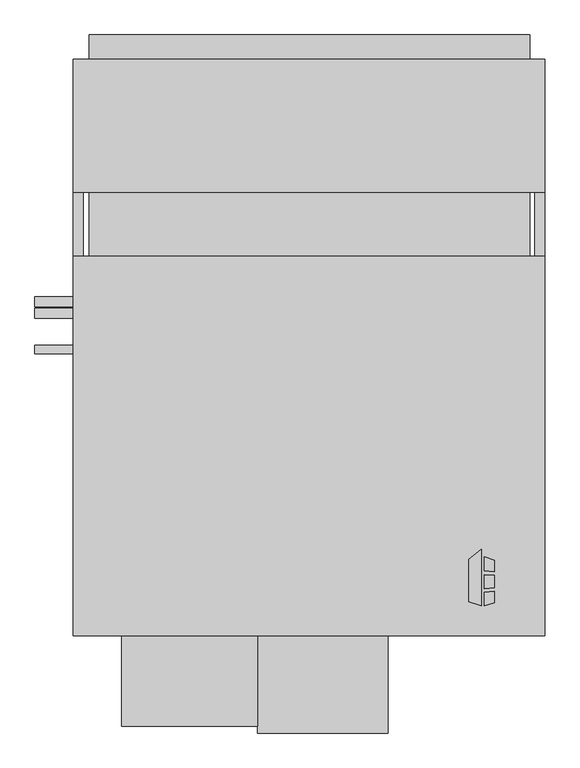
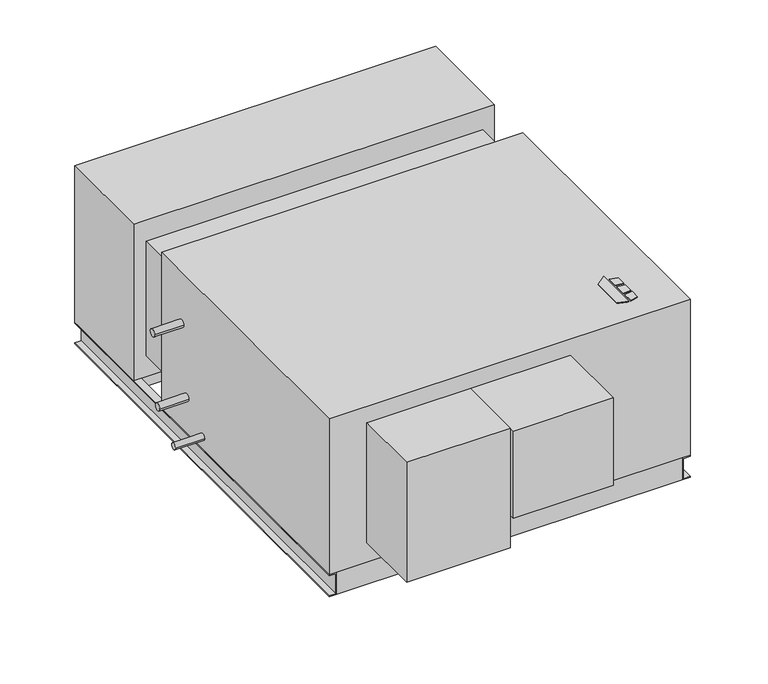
"""IFC4 building model written with IfcOpenShell, lengths in millimetres: proxy geometry, Horizontal_Direct_Drive_Blower_Coil_Unit_-_HDY_-_IEC_-_2-Pipe_Cool-EHeat_NFilterR_W-MixingBox_LH_2022 : Size 16 - 460v/60Hz/3Ph - 8 Row 16.0kW LH."""

from ifc_helpers import new_model, si_unit, point, frame, frame_2d, origin, origin_with_axes, place, context, project, spatial, polyline, circle_curve, trimmed, segment, composite_curve, outline, extrude, source, transform, mapped, element, save


def mechanical_equipment_5c8f0047(model_context):
    return source(origin(), model_context, "Body", "SweptSolid", [
        extrude(outline(polyline([(-65.3980239, -274.0078476), (-32.8397272, -248.5705184), (-32.8397272, -390.525), (-65.3980239, -380.3054201), (-65.3980239, -274.0078476)])), origin_with_axes(), (0.0, 0.0, 1.0), 3.175),
        extrude(outline(polyline([(-26.0813942, -301.879852), (-26.0813942, -267.3999379), (0.0, -275.5865115), (0.0, -305.0822446), (-26.0813942, -301.879852)])), origin_with_axes(), (0.0, 0.0, 1.0), 3.175),
        extrude(outline(polyline([(0.0, -383.5365115), (-26.0813942, -390.525), (-26.0813942, -357.3036996), (0.0, -353.7618564), (0.0, -383.5365115)])), origin_with_axes(), (0.0, 0.0, 1.0), 3.175),
        extrude(outline(polyline([(0.0, -314.1638277), (0.0, -345.413983), (-26.0813942, -348.155248), (-26.0813942, -312.2975378), (0.0, -314.1638277)])), origin_with_axes(), (0.0, 0.0, 1.0), 3.175),
        extrude(outline(polyline([(88.9, 889.635), (88.9, 686.435), (-1025.525, 686.435), (-1025.525, 889.635), (88.9, 889.635)])), frame((0.0, 0.0, -607.06), z_axis=(0.0, 0.0, 1.0), x_axis=(1.0, 0.0, 0.0)), (0.0, 0.0, 1.0), 60.96),
        extrude(outline(polyline([(-1025.525, 1052.195), (88.9, 1052.195), (88.9, 991.235), (-1025.525, 991.235), (-1025.525, 1052.195)])), frame((0.0, 0.0, -279.4), z_axis=(0.0, 0.0, 1.0), x_axis=(1.0, 0.0, 0.0)), (0.0, 0.0, 1.0), 203.2),
        extrude(outline(polyline([(127.0, 991.235), (127.0, 654.05), (-1066.8, 654.05), (-1066.8, 991.235), (127.0, 991.235)])), frame((0.0, 0.0, -546.1), z_axis=(0.0, 0.0, 1.0), x_axis=(1.0, 0.0, 0.0)), (0.0, 0.0, 1.0), 546.1),
        extrude(outline(polyline([(101.6, -441.325), (101.6, -466.725), (-1041.4, -466.725), (-1041.4, -441.325), (101.6, -441.325)])), frame((0.0, 0.0, -622.3), z_axis=(0.0, 0.0, 1.0), x_axis=(1.0, 0.0, 0.0)), (0.0, 0.0, 1.0), 76.2),
        extrude(outline(polyline([(101.6, 991.235), (101.6, 965.835), (-1041.4, 965.835), (-1041.4, 991.235), (101.6, 991.235)])), frame((0.0, 0.0, -622.3), z_axis=(0.0, 0.0, 1.0), x_axis=(1.0, 0.0, 0.0)), (0.0, 0.0, 1.0), 76.2),
        extrude(outline(polyline([(-546.1, -1041.4), (-546.1, -1066.8), (-549.275, -1066.8), (-549.275, -1044.575), (-619.125, -1044.575), (-619.125, -1066.8), (-622.3, -1066.8), (-622.3, -1041.4), (-546.1, -1041.4)])), frame((0.0, -466.725, 0.0), z_axis=(0.0, 1.0, 0.0), x_axis=(0.0, 0.0, 1.0)), (0.0, 0.0, 1.0), 1457.96),
        extrude(outline(polyline([(-546.1, 101.6), (-622.3, 101.6), (-622.3, 127.0), (-619.125, 127.0), (-619.125, 104.775), (-549.275, 104.775), (-549.275, 127.0), (-546.1, 127.0), (-546.1, 101.6)])), frame((0.0, -466.725, 0.0), z_axis=(0.0, 1.0, 0.0), x_axis=(0.0, 0.0, 1.0)), (0.0, 0.0, 1.0), 1457.96),
        extrude(outline(composite_curve([segment(trimmed(circle_curve(frame_2d((377.825, -177.8)), 12.7), [point((365.125, -177.8))], [point((390.525, -177.8))], False, "CARTESIAN"), True, "CONTINUOUS"), segment(trimmed(circle_curve(frame_2d((377.825, -177.8)), 12.7), [point((390.525, -177.8))], [point((365.125, -177.8))], False, "CARTESIAN"), True, "CONTINUOUS")], self_intersect=False)), frame((-1163.1025559, 0.0, 0.0), z_axis=(1.0, 0.0, 0.0), x_axis=(0.0, 1.0, 0.0)), (0.0, 0.0, 1.0), 96.3025559),
        extrude(outline(composite_curve([segment(trimmed(circle_curve(frame_2d((348.9715397, -419.1)), 12.7), [point((336.2715397, -419.1))], [point((361.6715397, -419.1))], False, "CARTESIAN"), True, "CONTINUOUS"), segment(trimmed(circle_curve(frame_2d((348.9715397, -419.1)), 12.7), [point((361.6715397, -419.1))], [point((336.2715397, -419.1))], False, "CARTESIAN"), True, "CONTINUOUS")], self_intersect=False)), frame((-1163.1025559, 0.0, 0.0), z_axis=(1.0, 0.0, 0.0), x_axis=(0.0, 1.0, 0.0)), (0.0, 0.0, 1.0), 96.3025559),
        extrude(outline(composite_curve([segment(trimmed(circle_curve(frame_2d((257.175, -501.65)), 11.1125), [point((246.0625, -501.65))], [point((268.2875, -501.65))], False, "CARTESIAN"), True, "CONTINUOUS"), segment(trimmed(circle_curve(frame_2d((257.175, -501.65)), 11.1125), [point((268.2875, -501.65))], [point((246.0625, -501.65))], False, "CARTESIAN"), True, "CONTINUOUS")], self_intersect=False)), frame((-1163.1025559, 0.0, 0.0), z_axis=(1.0, 0.0, 0.0), x_axis=(0.0, 1.0, 0.0)), (0.0, 0.0, 1.0), 96.3025559),
        extrude(outline(polyline([(127.0, 492.125), (127.0, -466.725), (-1066.8, -466.725), (-1066.8, 492.125), (127.0, 492.125)])), frame((0.0, 0.0, -546.1), z_axis=(0.0, 0.0, 1.0), x_axis=(1.0, 0.0, 0.0)), (0.0, 0.0, 1.0), 546.1),
        extrude(outline(polyline([(-600.075, -695.325), (-942.975, -695.325), (-942.975, -466.725), (-600.075, -466.725), (-600.075, -695.325)])), frame((0.0, 0.0, -476.25), z_axis=(0.0, 0.0, 1.0), x_axis=(1.0, 0.0, 0.0)), (0.0, 0.0, 1.0), 419.1),
        extrude(outline(polyline([(-1025.525, 654.05), (88.9, 654.05), (88.9, 492.125), (-1025.525, 492.125), (-1025.525, 654.05)])), frame((0.0, 0.0, -473.075), z_axis=(0.0, 0.0, 1.0), x_axis=(1.0, 0.0, 0.0)), (0.0, 0.0, 1.0), 400.05),
        extrude(outline(polyline([(-269.875, -712.7875), (-600.075, -712.7875), (-600.075, -466.725), (-269.875, -466.725), (-269.875, -712.7875)])), frame((0.0, 0.0, -361.95), z_axis=(0.0, 0.0, 1.0), x_axis=(1.0, 0.0, 0.0)), (0.0, 0.0, 1.0), 304.8),
    ])


if __name__ == "__main__":
    model = new_model("IFC4")
    model_context = context("Model", 3, world=origin())
    ifc_project = project(units=[si_unit("LENGTHUNIT", "METRE", prefix="MILLI")], contexts=[model_context])
    site = spatial("IfcSite", under=ifc_project)
    building = spatial("IfcBuilding", under=site)
    placement = place(None, origin())
    mechanical_equipment_shape = mechanical_equipment_5c8f0047(model_context)
    element("IfcBuildingElementProxy", 1, Name="Horizontal_Direct_Drive_Blower_Coil_Unit_-_HDY_-_IEC_-_2-Pipe_Cool-EHeat_NFilterR_W-MixingBox_LH_2022 : Size 16 - 460v/60Hz/3Ph - 8 Row 16.0kW LH", ObjectType="Horizontal_Direct_Drive_Blower_Coil_Unit_-_HDY_-_IEC_-_2-Pipe_Cool-EHeat_NFilterR_W-MixingBox_LH_2022 : Size 16 - 460v/60Hz/3Ph - 8 Row 16.0kW LH", at=placement, inside=building, context=model_context, shape_type="MappedRepresentation", body=[
        mapped(mechanical_equipment_shape, transform((0.0, 0.0, 0.0), x_axis=(1.0, 0.0, 0.0), y_axis=(0.0, 1.0, 0.0), z_axis=(0.0, 0.0, 1.0))),
    ])
    save(model, "model.ifc")
